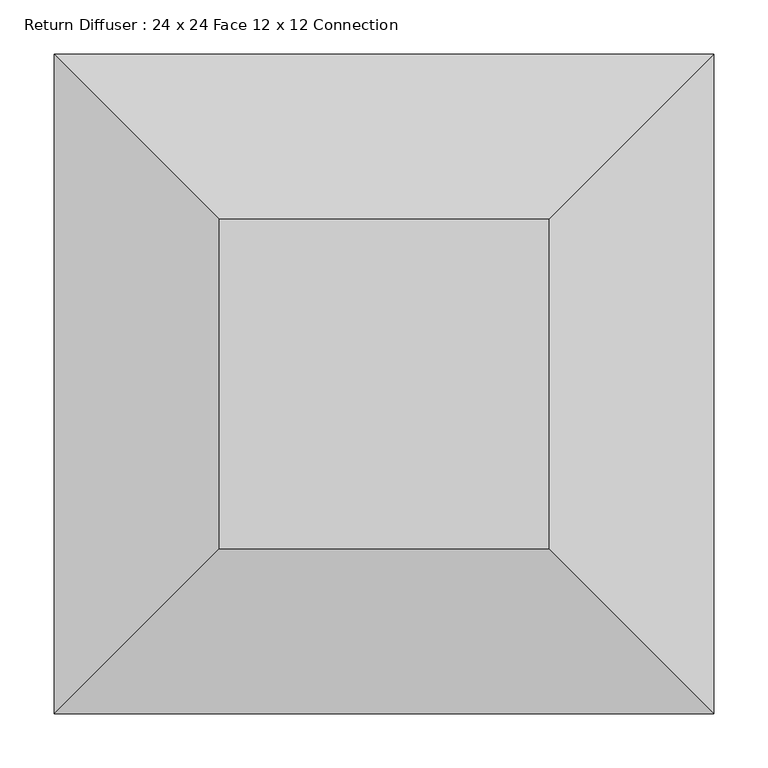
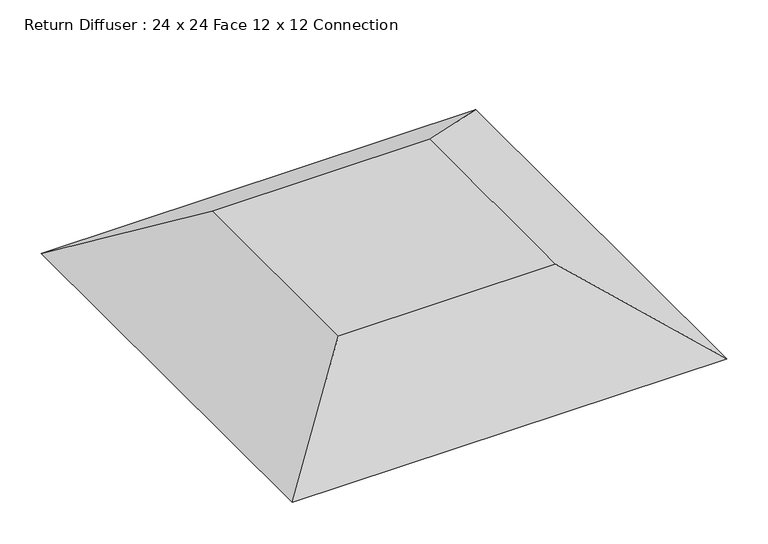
"""IFC4 building model written with IfcOpenShell, lengths in millimetres: air terminal geometry, Return Diffuser : 24 x 24 Face 12 x 12 Connection."""

from ifc_helpers import new_model, si_unit, origin, place, context, project, spatial, faceted_brep, source, transform, mapped, element, save


def return_diffuser_24_x_24_face_12_x_12_connection_0d699246(model_context):
    return source(origin(), model_context, "Body", "Brep", [
        faceted_brep([(152.4, -152.4, 101.6), (152.4, 152.4, 101.6), (-152.4, 152.4, 101.6), (-152.4, -152.4, 101.6), (304.8, -304.8, 0.0), (-304.8, -304.8, 0.0), (-304.8, 304.8, 0.0), (304.8, 304.8, 0.0)], [[[0, 1, 2, 3]], [[4, 5, 6, 7]], [[4, 0, 3, 5]], [[5, 3, 2, 6]], [[6, 2, 1, 7]], [[7, 1, 0, 4]]]),
    ])


if __name__ == "__main__":
    model = new_model("IFC4")
    model_context = context("Model", 3, world=origin())
    ifc_project = project(units=[si_unit("LENGTHUNIT", "METRE", prefix="MILLI")], contexts=[model_context])
    site = spatial("IfcSite", under=ifc_project)
    building = spatial("IfcBuilding", under=site)
    placement = place(None, origin())
    return_diffuser_24_x_24_face_12_x_12_connection_shape = return_diffuser_24_x_24_face_12_x_12_connection_0d699246(model_context)
    element("IfcAirTerminal", 1, ObjectType="Return Diffuser : 24 x 24 Face 12 x 12 Connection", at=placement, inside=building, context=model_context, shape_type="MappedRepresentation", body=[
        mapped(return_diffuser_24_x_24_face_12_x_12_connection_shape, transform((0.0, 0.0, 0.0), x_axis=(1.0, 0.0, 0.0), y_axis=(0.0, 1.0, 0.0), z_axis=(0.0, 0.0, 1.0))),
    ])
    save(model, "model.ifc")
